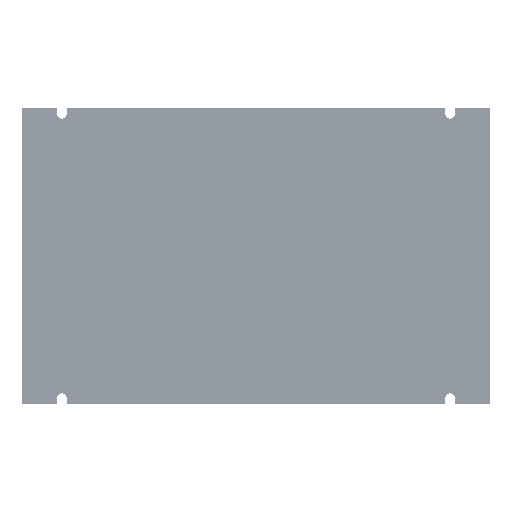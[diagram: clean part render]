
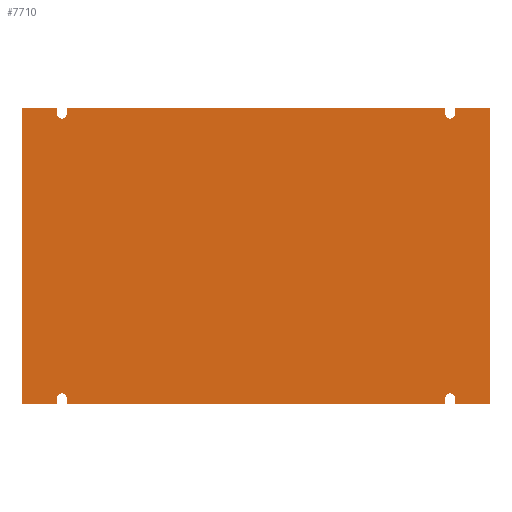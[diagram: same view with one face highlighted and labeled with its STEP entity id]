
A CAD part, front view. The second image highlights one B-rep face of the part: STEP entity #7710.
In plain terms, the highlighted planar face has unit normal (0, -1, 0).
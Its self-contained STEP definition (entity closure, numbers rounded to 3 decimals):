
#7137=DIRECTION('',(1.,0.,0.));
#7138=VECTOR('',#7137,17.5);
#7139=CARTESIAN_POINT('',(125.35,-0.764,160.5));
#7140=LINE('',#7139,#7138);
#7141=DIRECTION('',(0.,0.,-1.));
#7142=VECTOR('',#7141,3.);
#7143=CARTESIAN_POINT('',(125.35,-0.764,163.5));
#7144=LINE('',#7143,#7142);
#7145=CARTESIAN_POINT('',(122.85,-0.764,163.5));
#7146=DIRECTION('',(0.,1.,0.));
#7147=DIRECTION('',(-1.,0.,0.));
#7148=AXIS2_PLACEMENT_3D('',#7145,#7146,#7147);
#7150=DIRECTION('',(0.,0.,1.));
#7151=VECTOR('',#7150,3.);
#7152=CARTESIAN_POINT('',(120.35,-0.764,160.5));
#7153=LINE('',#7152,#7151);
#7154=DIRECTION('',(1.,0.,0.));
#7155=VECTOR('',#7154,190.);
#7156=CARTESIAN_POINT('',(-69.65,-0.764,160.5));
#7157=LINE('',#7156,#7155);
#7158=DIRECTION('',(0.,0.,-1.));
#7159=VECTOR('',#7158,3.);
#7160=CARTESIAN_POINT('',(-69.65,-0.764,163.5));
#7161=LINE('',#7160,#7159);
#7162=CARTESIAN_POINT('',(-72.15,-0.764,163.5));
#7163=DIRECTION('',(0.,1.,0.));
#7164=DIRECTION('',(-1.,0.,0.));
#7165=AXIS2_PLACEMENT_3D('',#7162,#7163,#7164);
#7167=DIRECTION('',(0.,0.,1.));
#7168=VECTOR('',#7167,3.);
#7169=CARTESIAN_POINT('',(-74.65,-0.764,160.5));
#7170=LINE('',#7169,#7168);
#7171=DIRECTION('',(1.,0.,0.));
#7172=VECTOR('',#7171,17.5);
#7173=CARTESIAN_POINT('',(-92.15,-0.764,160.5));
#7174=LINE('',#7173,#7172);
#7175=DIRECTION('',(0.,0.,-1.));
#7176=VECTOR('',#7175,149.);
#7177=CARTESIAN_POINT('',(-92.15,-0.764,309.5));
#7178=LINE('',#7177,#7176);
#7179=DIRECTION('',(-1.,0.,0.));
#7180=VECTOR('',#7179,17.5);
#7181=CARTESIAN_POINT('',(-74.65,-0.764,309.5));
#7182=LINE('',#7181,#7180);
#7183=DIRECTION('',(0.,0.,1.));
#7184=VECTOR('',#7183,3.);
#7185=CARTESIAN_POINT('',(-74.65,-0.764,306.5));
#7186=LINE('',#7185,#7184);
#7187=CARTESIAN_POINT('',(-72.15,-0.764,306.5));
#7188=DIRECTION('',(0.,1.,0.));
#7189=DIRECTION('',(0.,0.,-1.));
#7190=AXIS2_PLACEMENT_3D('',#7187,#7188,#7189);
#7192=CARTESIAN_POINT('',(-72.15,-0.764,306.5));
#7193=DIRECTION('',(0.,1.,0.));
#7194=DIRECTION('',(1.,0.,0.));
#7195=AXIS2_PLACEMENT_3D('',#7192,#7193,#7194);
#7197=DIRECTION('',(0.,0.,-1.));
#7198=VECTOR('',#7197,3.);
#7199=CARTESIAN_POINT('',(-69.65,-0.764,309.5));
#7200=LINE('',#7199,#7198);
#7201=DIRECTION('',(-1.,0.,0.));
#7202=VECTOR('',#7201,190.);
#7203=CARTESIAN_POINT('',(120.35,-0.764,309.5));
#7204=LINE('',#7203,#7202);
#7205=DIRECTION('',(0.,0.,1.));
#7206=VECTOR('',#7205,3.);
#7207=CARTESIAN_POINT('',(120.35,-0.764,306.5));
#7208=LINE('',#7207,#7206);
#7209=CARTESIAN_POINT('',(122.85,-0.764,306.5));
#7210=DIRECTION('',(0.,1.,0.));
#7211=DIRECTION('',(0.,0.,-1.));
#7212=AXIS2_PLACEMENT_3D('',#7209,#7210,#7211);
#7214=CARTESIAN_POINT('',(122.85,-0.764,306.5));
#7215=DIRECTION('',(0.,1.,0.));
#7216=DIRECTION('',(1.,0.,0.));
#7217=AXIS2_PLACEMENT_3D('',#7214,#7215,#7216);
#7219=DIRECTION('',(0.,0.,-1.));
#7220=VECTOR('',#7219,3.);
#7221=CARTESIAN_POINT('',(125.35,-0.764,309.5));
#7222=LINE('',#7221,#7220);
#7223=DIRECTION('',(-1.,0.,0.));
#7224=VECTOR('',#7223,17.5);
#7225=CARTESIAN_POINT('',(142.85,-0.764,309.5));
#7226=LINE('',#7225,#7224);
#7227=DIRECTION('',(0.,0.,1.));
#7228=VECTOR('',#7227,149.);
#7229=CARTESIAN_POINT('',(142.85,-0.764,160.5));
#7230=LINE('',#7229,#7228);
#7517=CARTESIAN_POINT('',(142.85,-0.764,309.5));
#7519=VERTEX_POINT('',#7517);
#7521=CARTESIAN_POINT('',(120.35,-0.764,163.5));
#7523=VERTEX_POINT('',#7521);
#7525=CARTESIAN_POINT('',(-74.65,-0.764,163.5));
#7526=CARTESIAN_POINT('',(-69.65,-0.764,163.5));
#7527=VERTEX_POINT('',#7525);
#7528=VERTEX_POINT('',#7526);
#7529=CARTESIAN_POINT('',(122.85,-0.764,304.));
#7530=CARTESIAN_POINT('',(120.35,-0.764,306.5));
#7531=VERTEX_POINT('',#7529);
#7532=VERTEX_POINT('',#7530);
#7537=CARTESIAN_POINT('',(-92.15,-0.764,309.5));
#7538=CARTESIAN_POINT('',(-92.15,-0.764,160.5));
#7539=VERTEX_POINT('',#7537);
#7540=VERTEX_POINT('',#7538);
#7541=CARTESIAN_POINT('',(142.85,-0.764,160.5));
#7542=VERTEX_POINT('',#7541);
#7555=CARTESIAN_POINT('',(-69.65,-0.764,309.5));
#7557=VERTEX_POINT('',#7555);
#7559=CARTESIAN_POINT('',(-74.65,-0.764,309.5));
#7560=VERTEX_POINT('',#7559);
#7565=CARTESIAN_POINT('',(-74.65,-0.764,306.5));
#7566=VERTEX_POINT('',#7565);
#7567=CARTESIAN_POINT('',(120.35,-0.764,309.5));
#7568=VERTEX_POINT('',#7567);
#7571=CARTESIAN_POINT('',(125.35,-0.764,306.5));
#7572=VERTEX_POINT('',#7571);
#7597=CARTESIAN_POINT('',(-74.65,-0.764,160.5));
#7598=VERTEX_POINT('',#7597);
#7603=CARTESIAN_POINT('',(-69.65,-0.764,306.5));
#7604=CARTESIAN_POINT('',(-72.15,-0.764,304.));
#7605=VERTEX_POINT('',#7603);
#7606=VERTEX_POINT('',#7604);
#7615=CARTESIAN_POINT('',(125.35,-0.764,309.5));
#7616=VERTEX_POINT('',#7615);
#7621=CARTESIAN_POINT('',(125.35,-0.764,163.5));
#7622=CARTESIAN_POINT('',(125.35,-0.764,160.5));
#7623=VERTEX_POINT('',#7621);
#7624=VERTEX_POINT('',#7622);
#7631=CARTESIAN_POINT('',(120.35,-0.764,160.5));
#7632=VERTEX_POINT('',#7631);
#7633=CARTESIAN_POINT('',(-69.65,-0.764,160.5));
#7634=VERTEX_POINT('',#7633);
#7660=CARTESIAN_POINT('',(122.85,-0.764,306.5));
#7661=DIRECTION('',(0.,-1.,0.));
#7662=DIRECTION('',(0.,0.,-1.));
#7663=AXIS2_PLACEMENT_3D('',#7660,#7661,#7662);
#7664=PLANE('',#7663);
#7666=ORIENTED_EDGE('',*,*,#7665,.F.);
#7668=ORIENTED_EDGE('',*,*,#7667,.F.);
#7670=ORIENTED_EDGE('',*,*,#7669,.F.);
#7672=ORIENTED_EDGE('',*,*,#7671,.F.);
#7674=ORIENTED_EDGE('',*,*,#7673,.F.);
#7676=ORIENTED_EDGE('',*,*,#7675,.F.);
#7678=ORIENTED_EDGE('',*,*,#7677,.F.);
#7680=ORIENTED_EDGE('',*,*,#7679,.F.);
#7682=ORIENTED_EDGE('',*,*,#7681,.F.);
#7684=ORIENTED_EDGE('',*,*,#7683,.F.);
#7685=ORIENTED_EDGE('',*,*,#7642,.F.);
#7687=ORIENTED_EDGE('',*,*,#7686,.F.);
#7689=ORIENTED_EDGE('',*,*,#7688,.F.);
#7691=ORIENTED_EDGE('',*,*,#7690,.F.);
#7693=ORIENTED_EDGE('',*,*,#7692,.F.);
#7695=ORIENTED_EDGE('',*,*,#7694,.F.);
#7697=ORIENTED_EDGE('',*,*,#7696,.F.);
#7699=ORIENTED_EDGE('',*,*,#7698,.F.);
#7701=ORIENTED_EDGE('',*,*,#7700,.F.);
#7703=ORIENTED_EDGE('',*,*,#7702,.F.);
#7705=ORIENTED_EDGE('',*,*,#7704,.F.);
#7707=ORIENTED_EDGE('',*,*,#7706,.F.);
#7708=EDGE_LOOP('',(#7666,#7668,#7670,#7672,#7674,#7676,#7678,#7680,#7682,#7684,
#7685,#7687,#7689,#7691,#7693,#7695,#7697,#7699,#7701,#7703,#7705,#7707));
#7709=FACE_OUTER_BOUND('',#7708,.F.);
#7710=ADVANCED_FACE('',(#7709),#7664,.T.);
#7149=CIRCLE('',#7148,2.5);
#7166=CIRCLE('',#7165,2.5);
#7191=CIRCLE('',#7190,2.5);
#7196=CIRCLE('',#7195,2.5);
#7213=CIRCLE('',#7212,2.5);
#7218=CIRCLE('',#7217,2.5);
#7642=EDGE_CURVE('',#7560,#7539,#7182,.T.);
#7665=EDGE_CURVE('',#7624,#7542,#7140,.T.);
#7667=EDGE_CURVE('',#7623,#7624,#7144,.T.);
#7669=EDGE_CURVE('',#7523,#7623,#7149,.T.);
#7671=EDGE_CURVE('',#7632,#7523,#7153,.T.);
#7673=EDGE_CURVE('',#7634,#7632,#7157,.T.);
#7675=EDGE_CURVE('',#7528,#7634,#7161,.T.);
#7677=EDGE_CURVE('',#7527,#7528,#7166,.T.);
#7679=EDGE_CURVE('',#7598,#7527,#7170,.T.);
#7681=EDGE_CURVE('',#7540,#7598,#7174,.T.);
#7683=EDGE_CURVE('',#7539,#7540,#7178,.T.);
#7686=EDGE_CURVE('',#7566,#7560,#7186,.T.);
#7688=EDGE_CURVE('',#7606,#7566,#7191,.T.);
#7690=EDGE_CURVE('',#7605,#7606,#7196,.T.);
#7692=EDGE_CURVE('',#7557,#7605,#7200,.T.);
#7694=EDGE_CURVE('',#7568,#7557,#7204,.T.);
#7696=EDGE_CURVE('',#7532,#7568,#7208,.T.);
#7698=EDGE_CURVE('',#7531,#7532,#7213,.T.);
#7700=EDGE_CURVE('',#7572,#7531,#7218,.T.);
#7702=EDGE_CURVE('',#7616,#7572,#7222,.T.);
#7704=EDGE_CURVE('',#7519,#7616,#7226,.T.);
#7706=EDGE_CURVE('',#7542,#7519,#7230,.T.);
